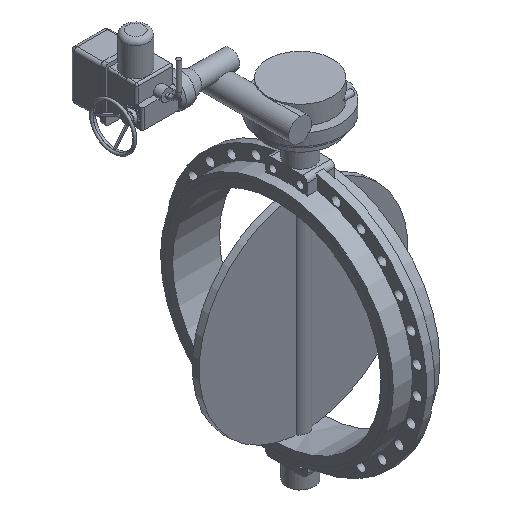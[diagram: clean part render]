
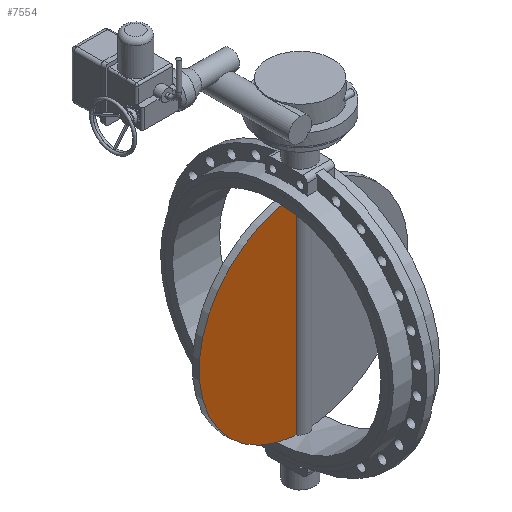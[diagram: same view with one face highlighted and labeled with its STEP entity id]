
A CAD part, isometric view. The second image highlights one B-rep face of the part: STEP entity #7554.
In plain terms, the highlighted planar face has unit normal (0, -1, 0).
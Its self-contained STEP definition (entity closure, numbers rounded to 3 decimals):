
#7554=ADVANCED_FACE('',(#15064),#15066,.T.);
#15064=FACE_BOUND('',#15065,.T.);
#15065=EDGE_LOOP('',(#19635,#19636,#19637,#19638));
#15066=PLANE('',#15067);
#15067=AXIS2_PLACEMENT_3D('',#15068,#15069,#15070);
#15068=CARTESIAN_POINT('',(0.,-15.,0.));
#15069=DIRECTION('',(0.,-1.,0.));
#15070=DIRECTION('',(0.,0.,1.));
#19635=ORIENTED_EDGE('',*,*,#21932,.T.);
#19636=ORIENTED_EDGE('',*,*,#21915,.T.);
#19637=ORIENTED_EDGE('',*,*,#21931,.T.);
#19638=ORIENTED_EDGE('',*,*,#21929,.T.);
#21915=EDGE_CURVE('',#25725,#25722,#25726,.F.);
#21929=EDGE_CURVE('',#25739,#25751,#25753,.T.);
#21931=EDGE_CURVE('',#25722,#25739,#25755,.T.);
#21932=EDGE_CURVE('',#25751,#25725,#25756,.F.);
#25722=VERTEX_POINT('',#36813);
#25725=VERTEX_POINT('',#36851);
#25726=LINE('',#36852,#36853);
#25739=VERTEX_POINT('',#37075);
#25751=VERTEX_POINT('',#37256);
#25753=LINE('',#37332,#37333);
#25755=CIRCLE('',#37339,451.5);
#25756=LINE('',#37343,#37344);
#36813=CARTESIAN_POINT('',(-39.715,-15.,449.75));
#36851=CARTESIAN_POINT('',(-31.623,-15.,449.75));
#36852=CARTESIAN_POINT('',(-39.715,-15.,449.75));
#36853=VECTOR('',#36854,1.);
#36854=DIRECTION('',(1.,0.,0.));
#37075=CARTESIAN_POINT('',(-39.715,-15.,-449.75));
#37256=CARTESIAN_POINT('',(-31.623,-15.,-449.75));
#37332=CARTESIAN_POINT('',(-39.715,-15.,-449.75));
#37333=VECTOR('',#37334,1.);
#37334=DIRECTION('',(1.,0.,0.));
#37339=AXIS2_PLACEMENT_3D('',#37340,#37341,#37342);
#37340=CARTESIAN_POINT('',(0.,-15.,0.));
#37341=DIRECTION('',(0.,-1.,0.));
#37342=DIRECTION('',(-0.088,0.,0.996));
#37343=CARTESIAN_POINT('',(-31.623,-15.,449.75));
#37344=VECTOR('',#37345,1.);
#37345=DIRECTION('',(0.,0.,-1.));
